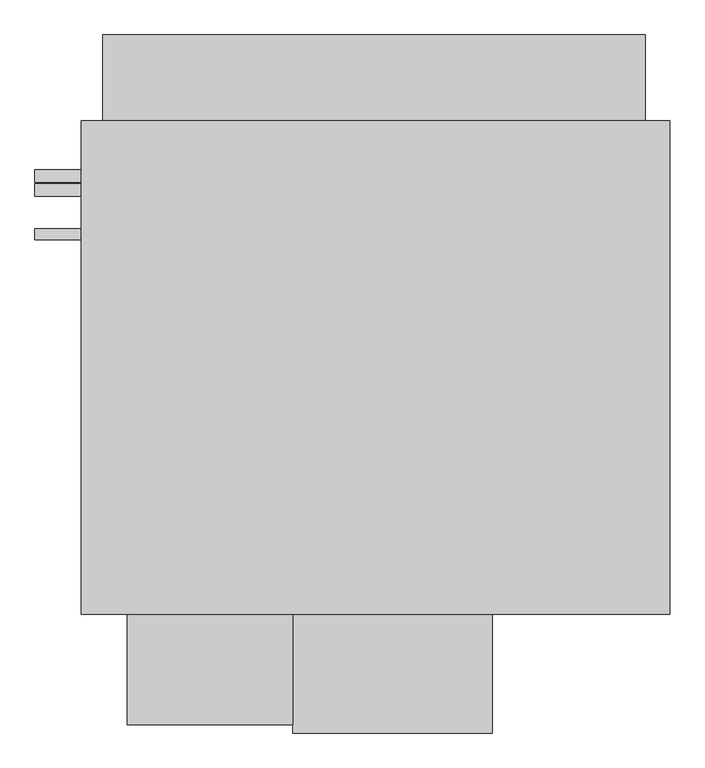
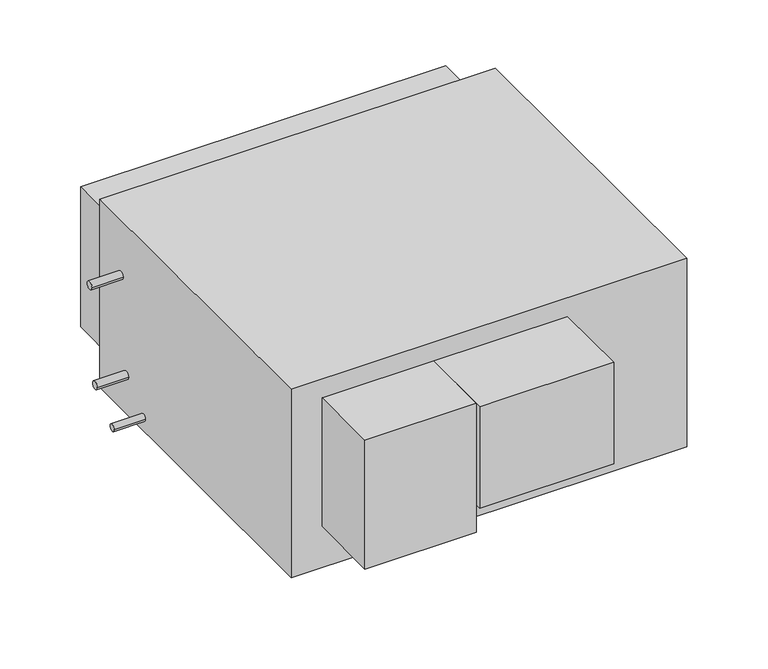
"""IFC4 building model written with IfcOpenShell, lengths in millimetres: proxy geometry, Horizontal_Direct_Drive_Blower_Coil_Unit_-_42DHA_-_CARRIER_-_2-Pipe_Cool-EHeat_LH_2022 : Size 20 - 460v/60Hz/3Ph - 8 Row 19.9kW LH."""

from ifc_helpers import new_model, si_unit, point, frame, frame_2d, origin, place, context, project, spatial, polyline, circle_curve, trimmed, segment, composite_curve, outline, extrude, source, transform, mapped, element, save


def mechanical_equipment_ee0adb7a(model_context):
    return source(origin(), model_context, "Body", "SweptSolid", [
        extrude(outline(composite_curve([segment(trimmed(circle_curve(frame_2d((377.825, -177.8)), 12.7), [point((365.125, -177.8))], [point((390.525, -177.8))], False, "CARTESIAN"), True, "CONTINUOUS"), segment(trimmed(circle_curve(frame_2d((377.825, -177.8)), 12.7), [point((390.525, -177.8))], [point((365.125, -177.8))], False, "CARTESIAN"), True, "CONTINUOUS")], self_intersect=False)), frame((-1163.1025559, 0.0, 0.0), z_axis=(1.0, 0.0, 0.0), x_axis=(0.0, 1.0, 0.0)), (0.0, 0.0, 1.0), 96.3025559),
        extrude(outline(composite_curve([segment(trimmed(circle_curve(frame_2d((348.9715397, -485.7558174)), 12.7), [point((336.2715397, -485.7558174))], [point((361.6715397, -485.7558174))], False, "CARTESIAN"), True, "CONTINUOUS"), segment(trimmed(circle_curve(frame_2d((348.9715397, -485.7558174)), 12.7), [point((361.6715397, -485.7558174))], [point((336.2715397, -485.7558174))], False, "CARTESIAN"), True, "CONTINUOUS")], self_intersect=False)), frame((-1163.1025559, 0.0, 0.0), z_axis=(1.0, 0.0, 0.0), x_axis=(0.0, 1.0, 0.0)), (0.0, 0.0, 1.0), 96.3025559),
        extrude(outline(composite_curve([segment(trimmed(circle_curve(frame_2d((257.175, -568.3058174)), 11.1125), [point((246.0625, -568.3058174))], [point((268.2875, -568.3058174))], False, "CARTESIAN"), True, "CONTINUOUS"), segment(trimmed(circle_curve(frame_2d((257.175, -568.3058174)), 11.1125), [point((268.2875, -568.3058174))], [point((246.0625, -568.3058174))], False, "CARTESIAN"), True, "CONTINUOUS")], self_intersect=False)), frame((-1163.1025559, 0.0, 0.0), z_axis=(1.0, 0.0, 0.0), x_axis=(0.0, 1.0, 0.0)), (0.0, 0.0, 1.0), 96.3025559),
        extrude(outline(polyline([(152.4, 492.125), (152.4, -530.225), (-1066.8, -530.225), (-1066.8, 492.125), (152.4, 492.125)])), frame((0.0, 0.0, -612.7558174), z_axis=(0.0, 0.0, 1.0), x_axis=(1.0, 0.0, 0.0)), (0.0, 0.0, 1.0), 612.7558174),
        extrude(outline(polyline([(-628.65, -758.825), (-971.55, -758.825), (-971.55, -530.225), (-628.65, -530.225), (-628.65, -758.825)])), frame((0.0, 0.0, -479.4058174), z_axis=(0.0, 0.0, 1.0), x_axis=(1.0, 0.0, 0.0)), (0.0, 0.0, 1.0), 419.1),
        extrude(outline(polyline([(-1022.35, 669.925), (101.6, 669.925), (101.6, 492.125), (-1022.35, 492.125), (-1022.35, 669.925)])), frame((0.0, 0.0, -539.7308174), z_axis=(0.0, 0.0, 1.0), x_axis=(1.0, 0.0, 0.0)), (0.0, 0.0, 1.0), 457.2),
        extrude(outline(polyline([(-215.9, -776.2875), (-628.65, -776.2875), (-628.65, -530.225), (-215.9, -530.225), (-215.9, -776.2875)])), frame((0.0, 0.0, -390.5058174), z_axis=(0.0, 0.0, 1.0), x_axis=(1.0, 0.0, 0.0)), (0.0, 0.0, 1.0), 330.2),
    ])


if __name__ == "__main__":
    model = new_model("IFC4")
    model_context = context("Model", 3, world=origin())
    ifc_project = project(units=[si_unit("LENGTHUNIT", "METRE", prefix="MILLI")], contexts=[model_context])
    site = spatial("IfcSite", under=ifc_project)
    building = spatial("IfcBuilding", under=site)
    placement = place(None, origin())
    mechanical_equipment_shape = mechanical_equipment_ee0adb7a(model_context)
    element("IfcBuildingElementProxy", 1, Name="Horizontal_Direct_Drive_Blower_Coil_Unit_-_42DHA_-_CARRIER_-_2-Pipe_Cool-EHeat_LH_2022 : Size 20 - 460v/60Hz/3Ph - 8 Row 19.9kW LH", ObjectType="Horizontal_Direct_Drive_Blower_Coil_Unit_-_42DHA_-_CARRIER_-_2-Pipe_Cool-EHeat_LH_2022 : Size 20 - 460v/60Hz/3Ph - 8 Row 19.9kW LH", at=placement, inside=building, context=model_context, shape_type="MappedRepresentation", body=[
        mapped(mechanical_equipment_shape, transform((0.0, 0.0, 0.0), x_axis=(1.0, 0.0, 0.0), y_axis=(0.0, 1.0, 0.0), z_axis=(0.0, 0.0, 1.0))),
    ])
    save(model, "model.ifc")
